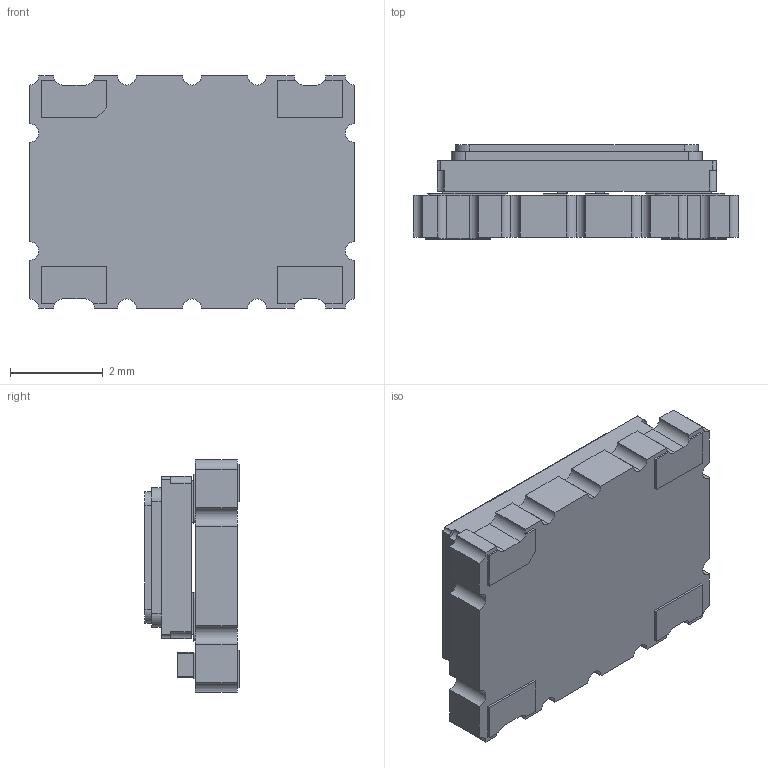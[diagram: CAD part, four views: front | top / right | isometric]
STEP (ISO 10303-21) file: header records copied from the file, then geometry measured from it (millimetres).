
FILE_DESCRIPTION (( 'STEP AP214' ), '1' );
FILE_NAME ('GK176-疺-3_捘.STEP', '2024-07-10T11:38:07', ( '' ), ( '' ), 'SwSTEP 2.0', 'SolidWorks 2019', '' );
FILE_SCHEMA (( 'AUTOMOTIVE_DESIGN' ));
Length unit declared in the file: millimetre
Products named in the file (4): 0402; crystals_smd6.0x3.5; GK176-疺-3_捘; 闃膼瘔 鏟176
Assembly tree (5 placements, depth 2):
  GK176-疺-3_捘
    闃膼瘔 鏟176
    crystals_smd6.0x3.5
    0402  x3
Bounding box: 7 x 2.03 x 5 mm (x, y, z)
Volume: 46.8 mm3; surface area: 165.4 mm2
Topology: 5 solids, 5 shells, 309 faces, 825 edges, 539 vertices
Faces by surface type: plane 243, cylinder 66
Entity records: 8663 total; most frequent: CARTESIAN_POINT 1373, ORIENTED_EDGE 1346, DIRECTION 1334, EDGE_CURVE 673, LINE 526, VECTOR 526, VERTEX_POINT 443, AXIS2_PLACEMENT_3D 404
